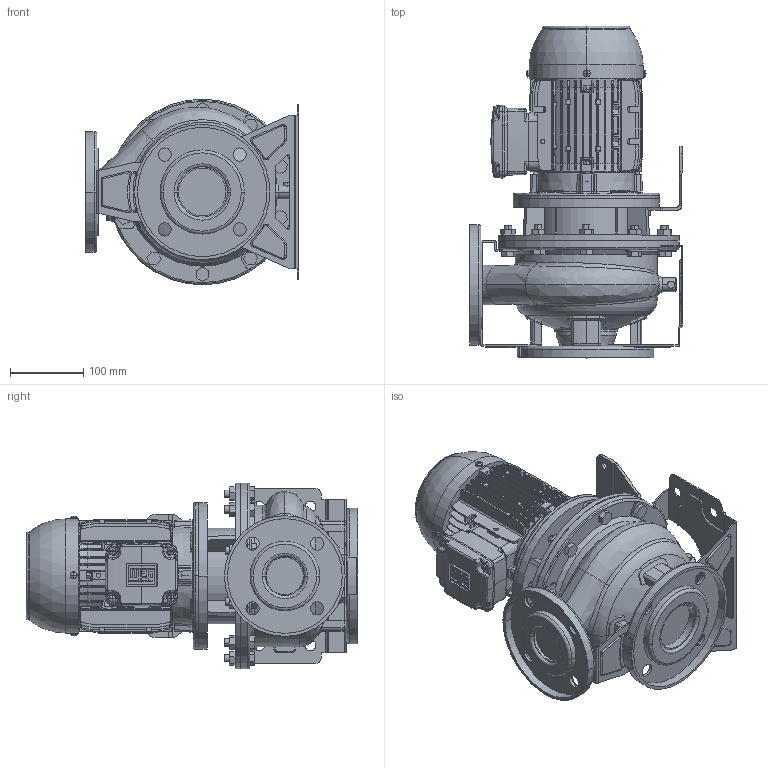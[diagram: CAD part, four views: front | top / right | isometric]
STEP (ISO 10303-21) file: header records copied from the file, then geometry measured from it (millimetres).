
FILE_DESCRIPTION (( 'STEP AP214' ), '1' );
FILE_NAME ('3LS4 50-125_0.55_(80)_W21.STEP', '2026-10-05T01:18:33', ( '' ), ( '' ), 'SwSTEP 2.0', 'SolidWorks 2024', '' );
FILE_SCHEMA (( 'AUTOMOTIVE_DESIGN' ));
Length unit declared in the file: inch
Products named in the file (3): 3LS4 50-125_0.55_(80)_W21; 3SF4_50-125_0_55; 80 ALIE3_W21_B5
Assembly tree (2 placements, depth 2):
  3LS4 50-125_0.55_(80)_W21
    3SF4_50-125_0_55
    80 ALIE3_W21_B5
Bounding box: 292 x 454 x 254 mm (x, y, z)
Volume: 9264586.5 mm3; surface area: 1140587.9 mm2
Topology: 12 solids, 18 shells, 2978 faces, 7798 edges, 5046 vertices
Faces by surface type: plane 1850, cylinder 705, bspline 161, torus 133, cone 95, sphere 34
Entity records: 112124 total; most frequent: CARTESIAN_POINT 39870, ORIENTED_EDGE 15560, DIRECTION 14142, EDGE_CURVE 7780, VECTOR 5082, LINE 5082, VERTEX_POINT 5046, AXIS2_PLACEMENT_3D 4530
